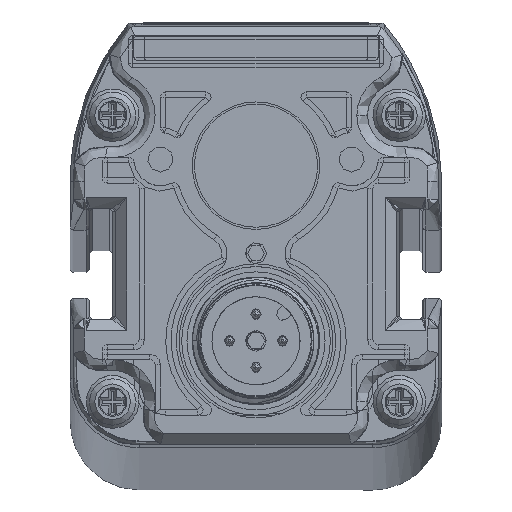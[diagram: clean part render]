
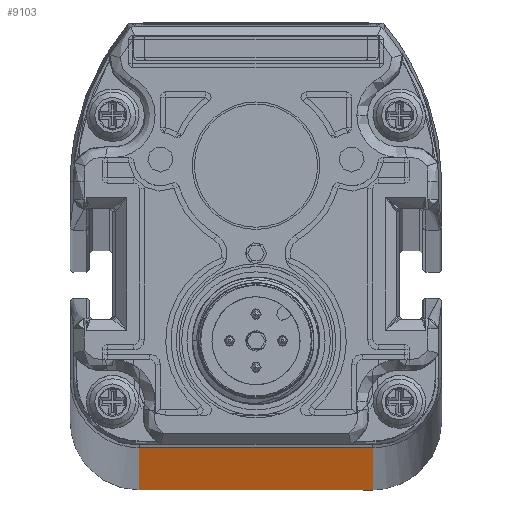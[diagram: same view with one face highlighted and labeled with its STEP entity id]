
A CAD part, top view. The second image highlights one B-rep face of the part: STEP entity #9103.
In plain terms, the highlighted planar face has unit normal (0, -1, 0).
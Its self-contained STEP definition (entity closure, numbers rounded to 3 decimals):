
#9103=ADVANCED_FACE('F280280',(#10770),#9952,.T.);
#9952=PLANE('',#29325);
#10770=FACE_OUTER_BOUND('',#12077,.T.);
#12077=EDGE_LOOP('',(#19685,#19686,#19687,#19688));
#14482=LINE('',#42659,#15665);
#15665=VECTOR('',#32784,1.);
#19685=ORIENTED_EDGE('',*,*,#26159,.T.);
#19686=ORIENTED_EDGE('',*,*,#26160,.F.);
#19687=ORIENTED_EDGE('',*,*,#26157,.T.);
#19688=ORIENTED_EDGE('',*,*,#25815,.F.);
#23287=VERTEX_POINT('',#41169);
#23408=VERTEX_POINT('',#42583);
#23589=VERTEX_POINT('',#44404);
#23590=VERTEX_POINT('',#44416);
#25815=EDGE_CURVE('',#23287,#23408,#14482,.T.);
#26157=EDGE_CURVE('',#23589,#23408,#27875,.T.);
#26159=EDGE_CURVE('',#23287,#23590,#27877,.T.);
#26160=EDGE_CURVE('',#23589,#23590,#27878,.T.);
#27875=B_SPLINE_CURVE_WITH_KNOTS('',3,(#44400,#44401,#44402,#44403),
 .UNSPECIFIED.,.F.,.F.,(4,4),(0.,1.),.UNSPECIFIED.);
#27877=B_SPLINE_CURVE_WITH_KNOTS('',3,(#44412,#44413,#44414,#44415),
 .UNSPECIFIED.,.F.,.F.,(4,4),(0.,1.),.UNSPECIFIED.);
#27878=B_SPLINE_CURVE_WITH_KNOTS('',3,(#44417,#44418,#44419,#44420),
 .UNSPECIFIED.,.F.,.F.,(4,4),(0.,1.),.UNSPECIFIED.);
#29325=AXIS2_PLACEMENT_3D('',#44421,#33306,#33307);
#32784=DIRECTION('',(1.,0.,0.));
#33306=DIRECTION('',(0.,-1.,0.));
#33307=DIRECTION('',(1.,0.,0.));
#41169=CARTESIAN_POINT('',(11.013,-2.493,243.168));
#42583=CARTESIAN_POINT('',(33.013,-2.493,243.168));
#42659=CARTESIAN_POINT('',(22.013,-2.493,243.168));
#44400=CARTESIAN_POINT('',(33.013,-2.493,-2034.242));
#44401=CARTESIAN_POINT('',(33.013,-2.493,-1275.105));
#44402=CARTESIAN_POINT('',(33.013,-2.493,-515.968));
#44403=CARTESIAN_POINT('',(33.013,-2.493,243.168));
#44404=CARTESIAN_POINT('',(33.013,-2.493,-2034.242));
#44412=CARTESIAN_POINT('',(11.013,-2.493,243.168));
#44413=CARTESIAN_POINT('',(11.013,-2.493,-515.968));
#44414=CARTESIAN_POINT('',(11.013,-2.493,-1275.105));
#44415=CARTESIAN_POINT('',(11.013,-2.493,-2034.242));
#44416=CARTESIAN_POINT('',(11.013,-2.493,-2034.242));
#44417=CARTESIAN_POINT('',(33.013,-2.493,-2034.242));
#44418=CARTESIAN_POINT('',(25.679,-2.493,-2034.242));
#44419=CARTESIAN_POINT('',(18.346,-2.493,-2034.242));
#44420=CARTESIAN_POINT('',(11.013,-2.493,-2034.242));
#44421=CARTESIAN_POINT('',(4.513,-2.493,-1005.332));
